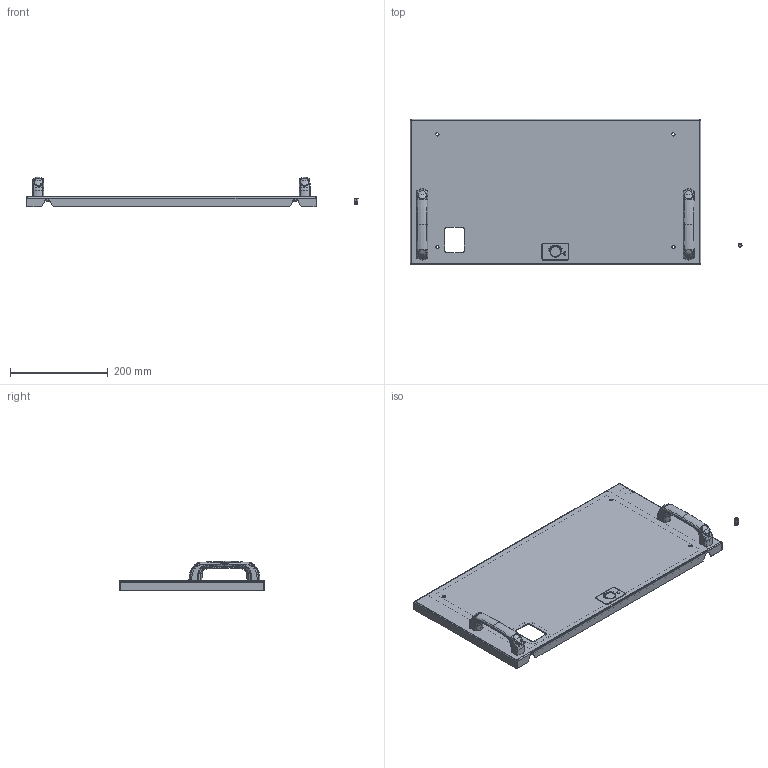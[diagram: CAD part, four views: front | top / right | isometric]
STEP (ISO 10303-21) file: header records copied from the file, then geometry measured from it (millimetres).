
FILE_DESCRIPTION(('CAx-IF Rec.Pracs.---Model Styling and Organization---1.2---2011-12-15','CAx-IF Rec.Pracs.---Geometric and Assembly Validation Properties---4.1---2014-06-16','CAx-IF Rec.Pracs.---PMI Polyline Presentation---2.0---2013-05-24'),'2;1');
FILE_NAME('R5M2W6M1BF.stp','2021-05-05T12:31:54+03:00',(''),(''),'STEP Interface 4.4 by CT CoreTechnologie','3D_Evolution4.4 by CT CoreTechnologie','');
FILE_SCHEMA(('AUTOMOTIVE_DESIGN { 1 0 10303 214 1 1 1 1 }'));
Length unit declared in the file: millimetre
Products named in the file (16): R5M2W6M1BF; Ì6õ12-A5100231_straight; RB.1166.00.05.0; AC00C148_AC00C148; PF 3.5x7 RAMmcc 2.0_00; 4.444.002(1); PR.DT477.120.02-poprawa; PR.DT477.120.01; RB.1166.00.01.0_-03; countersunk flat head cross recess screw_din_DIN EN ISO 7046-1 - M6 x 16 - Z - 16N; RB.1166.00.02.0_¢ à 1; Ì6-GOST 5915-70 (DIN 934) (CM110600)_straight; RB.1166.00.04.0_-00; 4.444.002(2); PF 7x14 RAMmcc 2.0_61; AC00C061_AC00C061
Assembly tree (27 placements, depth 3):
  R5M2W6M1BF
    Ì6õ12-A5100231_straight
    RB.1166.00.05.0  x3
    AC00C148_AC00C148  x3
    PF 3.5x7 RAMmcc 2.0_00
    4.444.002(1)
      PR.DT477.120.02-poprawa  x2
      PR.DT477.120.01
    RB.1166.00.01.0_-03
    countersunk flat head cross recess screw_din_DIN EN ISO 7046-1 - M6 x 16 - Z - 16N  x4
    RB.1166.00.02.0_¢ à 1
    Ì6-GOST 5915-70 (DIN 934) (CM110600)_straight  x2
    RB.1166.00.04.0_-00
    4.444.002(2)
      PR.DT477.120.02-poprawa  x2
      PR.DT477.120.01
    PF 7x14 RAMmcc 2.0_61
    AC00C061_AC00C061
Bounding box: 678 x 297 x 60 mm (x, y, z)
Surface area: 533896.9 mm2 (no closed solid volume)
Topology: 0 solids, 34 shells, 2117 faces, 5229 edges, 3160 vertices
Faces by surface type: bspline 1092, plane 674, cylinder 351
Entity records: 44735 total; most frequent: CARTESIAN_POINT 20800, ORIENTED_EDGE 5056, DIRECTION 4620, EDGE_CURVE 2528, AXIS2_PLACEMENT_3D 1753, VERTEX_POINT 1547, CIRCLE 1210, VECTOR 1114
